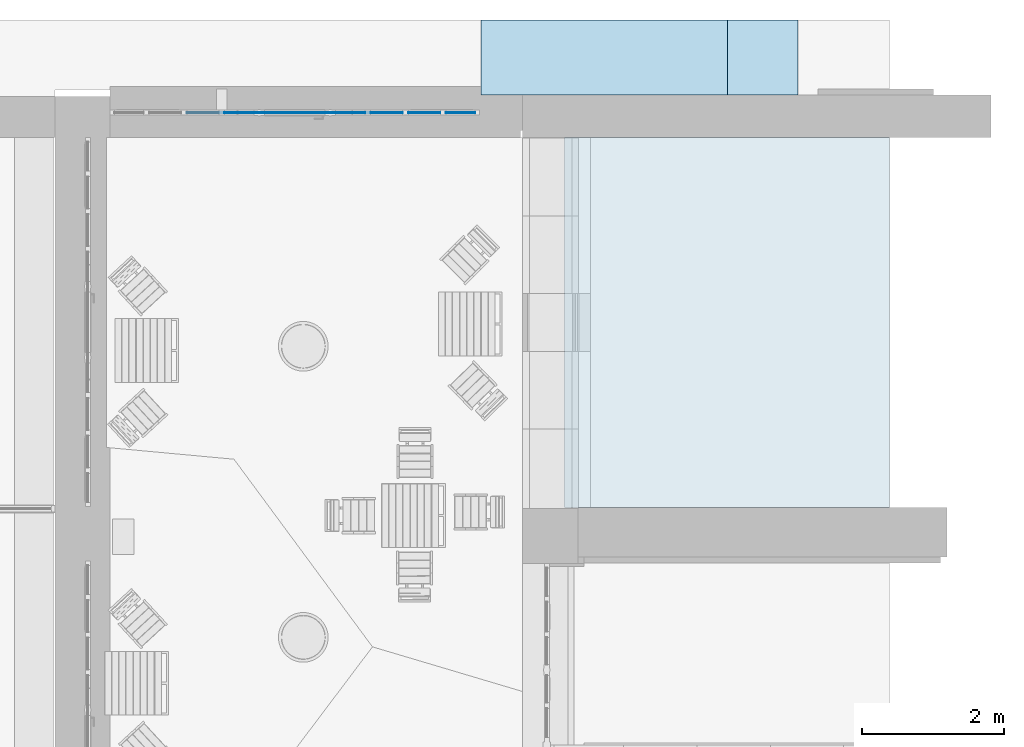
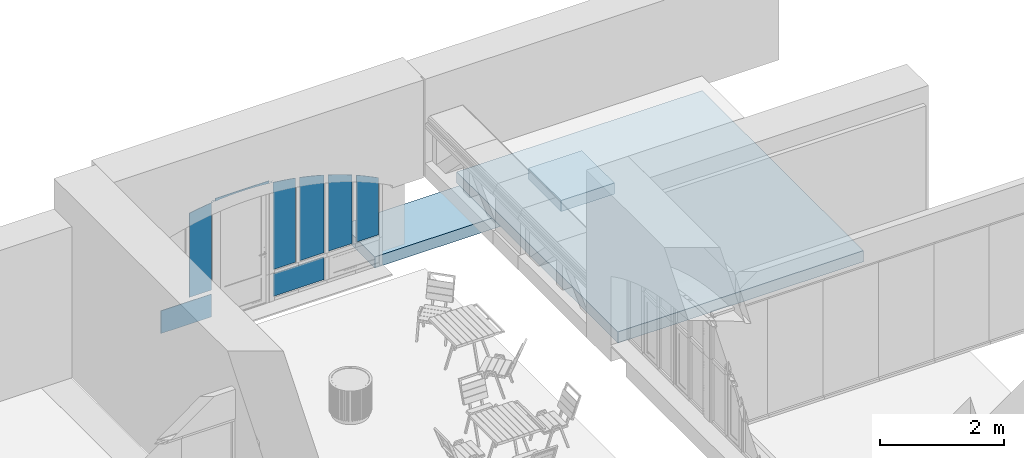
# One storey, part 67 of 88: 8 plates, 3 slabs, 2 elements without a shape of their own.
"""IFC2X3 building model written with IfcOpenShell, lengths in millimetres."""

from ifc_helpers import new_model, entity, si_unit, converted_unit, derived_unit, direction, frame, frame_2d, origin, origin_2d_with_axis, place, context, subcontext, project, spatial, polyline, circle_curve, parameter, trimmed, segment, composite_curve, rectangle, outline, extrude, face_set, surface_model, source, transform, mapped, material, layer, layer_set, layer_usage, type_object, type_shapes, element, aggregate, save


model = new_model("IFC2X3")

# Units and contexts
model_context = context("Model", 3, precision=0.01, world=origin(), true_north=direction((6.123031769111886e-17, 1.0)))
body_context = subcontext(model_context, "Body", "Model", "MODEL_VIEW")
ifc_project = project(units=[si_unit("LENGTHUNIT", "METRE", prefix="MILLI"), si_unit("AREAUNIT", "SQUARE_METRE"), si_unit("VOLUMEUNIT", "CUBIC_METRE"), converted_unit("PLANEANGLEUNIT", "DEGREE", entity("IfcPlaneAngleMeasure", 0.017453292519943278), si_unit("PLANEANGLEUNIT", "RADIAN"), dimensions=[0, 0, 0, 0, 0, 0, 0]), si_unit("MASSUNIT", "GRAM", prefix="KILO"), derived_unit("MASSDENSITYUNIT", [(si_unit("MASSUNIT", "GRAM", prefix="KILO"), 1), (si_unit("LENGTHUNIT", "METRE"), -3)]), derived_unit("IONCONCENTRATIONUNIT", [(si_unit("MASSUNIT", "GRAM", prefix="KILO"), 1), (si_unit("LENGTHUNIT", "METRE"), -3)]), derived_unit("MOMENTOFINERTIAUNIT", [(si_unit("LENGTHUNIT", "METRE"), 4)]), si_unit("TIMEUNIT", "SECOND"), si_unit("FREQUENCYUNIT", "HERTZ"), si_unit("THERMODYNAMICTEMPERATUREUNIT", "DEGREE_CELSIUS"), derived_unit("THERMALTRANSMITTANCEUNIT", [(si_unit("MASSUNIT", "GRAM", prefix="KILO"), 1), (si_unit("THERMODYNAMICTEMPERATUREUNIT", "KELVIN"), -1), (si_unit("TIMEUNIT", "SECOND"), -3)]), derived_unit("THERMALCONDUCTANCEUNIT", [(si_unit("MASSUNIT", "GRAM", prefix="KILO"), 1), (si_unit("THERMODYNAMICTEMPERATUREUNIT", "KELVIN"), -1), (si_unit("TIMEUNIT", "SECOND"), -3), (si_unit("LENGTHUNIT", "METRE"), 1)]), derived_unit("VOLUMETRICFLOWRATEUNIT", [(si_unit("LENGTHUNIT", "METRE", prefix="DECI"), 3), (si_unit("TIMEUNIT", "SECOND"), -1)]), derived_unit("MASSFLOWRATEUNIT", [(si_unit("MASSUNIT", "GRAM", prefix="KILO"), 1), (si_unit("TIMEUNIT", "SECOND"), -1)]), derived_unit("ROTATIONALFREQUENCYUNIT", [(si_unit("TIMEUNIT", "SECOND"), -1)]), si_unit("ELECTRICCURRENTUNIT", "AMPERE"), si_unit("ELECTRICVOLTAGEUNIT", "VOLT"), si_unit("POWERUNIT", "WATT"), si_unit("FORCEUNIT", "NEWTON", prefix="KILO"), si_unit("ILLUMINANCEUNIT", "LUX"), si_unit("LUMINOUSFLUXUNIT", "LUMEN"), si_unit("LUMINOUSINTENSITYUNIT", "CANDELA"), si_unit("ENERGYUNIT", "JOULE"), derived_unit("USERDEFINED", [(si_unit("MASSUNIT", "GRAM", prefix="KILO"), -1), (si_unit("LENGTHUNIT", "METRE"), -2), (si_unit("TIMEUNIT", "SECOND"), 3), (si_unit("LUMINOUSFLUXUNIT", "LUMEN"), 1)]), derived_unit("USERDEFINED", [(si_unit("MASSUNIT", "GRAM", prefix="KILO"), 1), (si_unit("TIMEUNIT", "SECOND"), -3), (si_unit("LENGTHUNIT", "METRE"), 3), (si_unit("ELECTRICCURRENTUNIT", "AMPERE"), -2)]), derived_unit("SOUNDPOWERUNIT", [(si_unit("MASSUNIT", "GRAM", prefix="KILO"), 1), (si_unit("TIMEUNIT", "SECOND"), -3), (si_unit("LENGTHUNIT", "METRE"), 2)]), derived_unit("SOUNDPRESSUREUNIT", [(si_unit("MASSUNIT", "GRAM", prefix="KILO"), 1), (si_unit("LENGTHUNIT", "METRE"), -1), (si_unit("TIMEUNIT", "SECOND"), -2)]), derived_unit("LINEARVELOCITYUNIT", [(si_unit("LENGTHUNIT", "METRE"), 1), (si_unit("TIMEUNIT", "SECOND"), -1)]), si_unit("PRESSUREUNIT", "PASCAL"), derived_unit("USERDEFINED", [(si_unit("MASSUNIT", "GRAM", prefix="KILO"), 1), (si_unit("LENGTHUNIT", "METRE"), -2), (si_unit("TIMEUNIT", "SECOND"), -2)]), derived_unit("LINEARFORCEUNIT", [(si_unit("MASSUNIT", "GRAM", prefix="KILO"), 1), (si_unit("TIMEUNIT", "SECOND"), -2)]), derived_unit("PLANARFORCEUNIT", [(si_unit("MASSUNIT", "GRAM", prefix="KILO"), 1), (si_unit("LENGTHUNIT", "METRE"), -1), (si_unit("TIMEUNIT", "SECOND"), -2)]), derived_unit("SPECIFICHEATCAPACITYUNIT", [(si_unit("THERMODYNAMICTEMPERATUREUNIT", "KELVIN"), -1), (si_unit("LENGTHUNIT", "METRE"), 2), (si_unit("TIMEUNIT", "SECOND"), -2)]), derived_unit("HEATFLUXDENSITYUNIT", [(si_unit("MASSUNIT", "GRAM", prefix="KILO"), 1), (si_unit("TIMEUNIT", "SECOND"), -3)]), derived_unit("HEATINGVALUEUNIT", [(si_unit("LENGTHUNIT", "METRE"), 2), (si_unit("TIMEUNIT", "SECOND"), -2)]), derived_unit("VAPORPERMEABILITYUNIT", [(si_unit("LENGTHUNIT", "METRE"), -1), (si_unit("TIMEUNIT", "SECOND"), 1)]), derived_unit("DYNAMICVISCOSITYUNIT", [(si_unit("MASSUNIT", "GRAM", prefix="KILO"), 1), (si_unit("TIMEUNIT", "SECOND"), -1), (si_unit("LENGTHUNIT", "METRE"), -1)]), derived_unit("THERMALEXPANSIONCOEFFICIENTUNIT", [(si_unit("THERMODYNAMICTEMPERATUREUNIT", "KELVIN"), -1)]), derived_unit("MODULUSOFELASTICITYUNIT", [(si_unit("MASSUNIT", "GRAM", prefix="KILO"), 1), (si_unit("LENGTHUNIT", "METRE"), -1), (si_unit("TIMEUNIT", "SECOND"), -2)]), derived_unit("ISOTHERMALMOISTURECAPACITYUNIT", [(si_unit("MASSUNIT", "GRAM", prefix="KILO"), -1), (si_unit("LENGTHUNIT", "METRE"), 3)]), derived_unit("MOISTUREDIFFUSIVITYUNIT", [(si_unit("TIMEUNIT", "SECOND"), -1), (si_unit("LENGTHUNIT", "METRE"), 2)]), derived_unit("MASSPERLENGTHUNIT", [(si_unit("MASSUNIT", "GRAM", prefix="KILO"), 1), (si_unit("LENGTHUNIT", "METRE"), -1)]), derived_unit("THERMALRESISTANCEUNIT", [(si_unit("MASSUNIT", "GRAM", prefix="KILO"), -1), (si_unit("TIMEUNIT", "SECOND"), 3), (si_unit("THERMODYNAMICTEMPERATUREUNIT", "KELVIN"), 1)]), derived_unit("ACCELERATIONUNIT", [(si_unit("LENGTHUNIT", "METRE"), 1), (si_unit("TIMEUNIT", "SECOND"), -2)]), derived_unit("ANGULARVELOCITYUNIT", [(si_unit("TIMEUNIT", "SECOND"), -1), (si_unit("PLANEANGLEUNIT", "RADIAN"), 1)]), derived_unit("LINEARSTIFFNESSUNIT", [(si_unit("MASSUNIT", "GRAM", prefix="KILO"), 1), (si_unit("TIMEUNIT", "SECOND"), -2)]), derived_unit("WARPINGCONSTANTUNIT", [(si_unit("LENGTHUNIT", "METRE"), 6)]), derived_unit("LINEARMOMENTUNIT", [(si_unit("MASSUNIT", "GRAM", prefix="KILO"), 1), (si_unit("LENGTHUNIT", "METRE"), 1), (si_unit("TIMEUNIT", "SECOND"), -2)]), derived_unit("TORQUEUNIT", [(si_unit("MASSUNIT", "GRAM", prefix="KILO"), 1), (si_unit("LENGTHUNIT", "METRE"), 2), (si_unit("TIMEUNIT", "SECOND"), -2)])], contexts=[model_context])

# Site, building, storey
site_placement = place(None, origin())
site = spatial("IfcSite", under=ifc_project, at=site_placement, Name="Default", CompositionType="ELEMENT")
building_placement = place(site_placement, origin())
building = spatial("IfcBuilding", under=site, at=building_placement, Name="Eesti Rahvusraamatukogu hoone renoveerimise projekteerimistööd", CompositionType="ELEMENT")
storey_placement = place(building_placement, origin())
storey = spatial("IfcBuildingStorey", under=building, at=storey_placement, Name="1. korrus", CompositionType="ELEMENT", Elevation=0.0)

# Roof, slab
ifc_material_1 = material(Name="ol. olev materjal")
ifc_layer_1 = layer(ifc_material_1, 220.0)
ifc_layer_set_1 = layer_set([ifc_layer_1], Name="Basic Roof:ol. olev - 220mm")
roof_placement = place(storey_placement, frame((-36190.173422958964, 48780.0, 1330.0)))
roof = element("IfcRoof", 1, at=roof_placement, inside=storey, material=ifc_layer_set_1, Name="Basic Roof:ol. olev - 220mm", ObjectType="Basic Roof:ol. olev - 220mm", ShapeType="NOTDEFINED")
slab_type_1 = type_object("IfcSlabType", Name="Basic Roof:ol. olev - 220mm", PredefinedType="ROOF")
slab_1_placement = place(storey_placement, frame((-36190.173422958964, 48780.0, 1330.0)))
slab_1 = element("IfcSlab", 2, at=slab_1_placement, type_object=slab_type_1, Name="Basic Roof:ol. olev - 220mm:1", ObjectType="Basic Roof:ol. olev - 220mm", PredefinedType="ROOF", context=body_context, shape_type="SweptSolid", body=[
    extrude(rectangle(XDim=5210.376279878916, YDim=4580.354991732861, at=frame_2d((4.320099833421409e-12, -6.59383658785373e-12), x_axis=(1.0, 0.0))), frame((2290.177495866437, 2605.1881399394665, 0.0), z_axis=(0.0, 0.0, 1.0), x_axis=(0.0, 1.0, 0.0)), (0.0, 0.0, 1.0), 220.00000000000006),
])
aggregate(roof, [slab_1])

# Slabs
ifc_layer_2 = layer(ifc_material_1, 220.0)
ifc_layer_set_2 = layer_set([ifc_layer_2], Name="Floor:ol. olev - 220mm")
ifc_layer_usage_1 = layer_usage(ifc_layer_set_2, "AXIS3", "POSITIVE", 0.0)
slab_type_2 = type_object("IfcSlabType", Name="Floor:ol. olev - 220mm", PredefinedType="FLOOR", material=ifc_layer_set_2)
slab_2_placement = place(storey_placement, origin())
element("IfcSlab", 3, at=slab_2_placement, inside=storey, type_object=slab_type_2, material=ifc_layer_usage_1, Name="Floor:ol. olev - 220mm", ObjectType="Floor:ol. olev - 220mm", PredefinedType="FLOOR", context=body_context, shape_type="SweptSolid", body=[
    extrude(rectangle(XDim=1055.5457075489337, YDim=3474.999999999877, at=origin_2d_with_axis()), frame((-35632.49999999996, 55118.14913365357, -80.0), z_axis=(0.0, 0.0, -1.0), x_axis=(0.0, 1.0, 0.0)), (0.0, 0.0, 1.0), 220.00000000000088),
])
ifc_layer_usage_2 = layer_usage(ifc_layer_set_2, "AXIS3", "POSITIVE", 0.0)
slab_3_placement = place(storey_placement, origin())
element("IfcSlab", 4, at=slab_3_placement, inside=storey, type_object=slab_type_2, material=ifc_layer_usage_2, Name="Floor:ol. olev - 220mm", ObjectType="Floor:ol. olev - 220mm", PredefinedType="FLOOR", context=body_context, shape_type="SweptSolid", body=[
    extrude(rectangle(XDim=1055.5457075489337, YDim=995.000000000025, at=frame_2d((0.0, 4.320099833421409e-12), x_axis=(1.0, 0.0))), frame((-33397.500000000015, 55118.14913365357, -185.49999999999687), z_axis=(0.0, 0.0, -1.0), x_axis=(0.0, 1.0, 0.0)), (0.0, 0.0, 1.0), 220.00000000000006),
])

# Curtain wall, plates
curtain_wall_type = type_object("IfcCurtainWallType", Name="Curtain Wall:Ak-05", PredefinedType="NOTDEFINED")
curtain_wall_placement = place(storey_placement, origin())
curtain_wall = element("IfcCurtainWall", 5, at=curtain_wall_placement, inside=storey, type_object=curtain_wall_type, Name="Curtain Wall:Ak-05", ObjectType="Curtain Wall:Ak-05")
ifc_material_2 = material(Name="EST. Klaas. 3x. Default")
plate_type_1 = type_object("IfcPlateType", Name="System Panel:Peegelaknad 6-16-4-16-4, paneel", PredefinedType="CURTAIN_PANEL", material=ifc_material_2)
shared_shape_1 = source(origin(), body_context, "Body", "SweptSolid", [
    extrude(rectangle(XDim=450.00000000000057, YDim=944.9999999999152, at=frame_2d((0.0, -5.833333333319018), x_axis=(1.0, 0.0))), frame((5.833333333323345, -5.0, 225.0), z_axis=(0.0, 1.0, 0.0), x_axis=(0.0, 0.0, 1.0)), (0.0, 0.0, 1.0), 10.0),
])
type_shapes(plate_type_1, [shared_shape_1])
plate_1_placement = place(curtain_wall_placement, frame((-38942.500000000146, 54340.0, 10.0), z_axis=(0.0, 0.0, 1.0), x_axis=(-1.0, 0.0, 0.0)))
plate_1 = element("IfcPlate", 6, at=plate_1_placement, type_object=plate_type_1, material=ifc_material_2, Name="System Panel:Peegelaknad 6-16-4-16-4, paneel", ObjectType="System Panel:Peegelaknad 6-16-4-16-4, paneel", context=body_context, shape_type="MappedRepresentation", body=[
    mapped(shared_shape_1, transform((0.0, 0.0, 0.0), scale=1.0)),
])
plate_type_2 = type_object("IfcPlateType", Name="System Panel:Peegelaknad 6-16-4-16-4, paneel", PredefinedType="CURTAIN_PANEL", material=ifc_material_2)
shared_shape_2 = source(origin(), body_context, "Body", "SweptSolid", [
    extrude(rectangle(XDim=450.00000000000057, YDim=945.0000000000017, at=frame_2d((0.0, 5.833333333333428), x_axis=(1.0, 0.0))), frame((-5.8333333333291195, -5.0, 225.0), z_axis=(0.0, 1.0, 0.0), x_axis=(0.0, 0.0, 1.0)), (0.0, 0.0, 1.0), 10.0),
])
type_shapes(plate_type_2, [shared_shape_2])
plate_2_placement = place(curtain_wall_placement, frame((-41037.5000000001, 54340.0, 10.0), z_axis=(0.0, 0.0, 1.0), x_axis=(-1.0, 0.0, 0.0)))
plate_2 = element("IfcPlate", 7, at=plate_2_placement, type_object=plate_type_2, material=ifc_material_2, Name="System Panel:Peegelaknad 6-16-4-16-4, paneel", ObjectType="System Panel:Peegelaknad 6-16-4-16-4, paneel", context=body_context, shape_type="MappedRepresentation", body=[
    mapped(shared_shape_2, transform((0.0, 0.0, 0.0), scale=1.0)),
])
plate_type_3 = type_object("IfcPlateType", Name="System Panel:Peegelaknad 6-16-4-16-4, paneel", PredefinedType="CURTAIN_PANEL", material=ifc_material_2)
shared_shape_3 = source(origin(), body_context, "Body", "SweptSolid", [
    extrude(outline(composite_curve([segment(polyline([(-610.3301409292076, -205.0), (513.3133718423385, -205.0)]), True, "CONTINUOUS"), segment(trimmed(circle_curve(frame_2d((-4323.610707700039, 2335.0), x_axis=(0.9256428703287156, -0.37839830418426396)), 5463.280566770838), [parameter(354.5293230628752)], [parameter(359.2877436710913)], True, "PARAMETER"), True, "CONTINUOUS"), segment(polyline([(707.3469100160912, 205.0), (-610.3301409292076, 205.0)]), True, "CONTINUOUS"), segment(polyline([(-610.3301409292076, 205.0), (-610.3301409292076, -205.0)]), True, "CONTINUOUS")], self_intersect=False)), frame((0.0, -5.0, 610.3301409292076), z_axis=(0.0, 1.0, 0.0), x_axis=(0.0, 0.0, 1.0)), (0.0, 0.0, 1.0), 10.0),
])
type_shapes(plate_type_3, [shared_shape_3])
plate_3_placement = place(curtain_wall_placement, frame((-37655.0, 54340.0, 540.0), z_axis=(0.0, 0.0, 1.0), x_axis=(-1.0, 0.0, 0.0)))
plate_3 = element("IfcPlate", 8, at=plate_3_placement, type_object=plate_type_3, material=ifc_material_2, Name="System Panel:Peegelaknad 6-16-4-16-4, paneel", ObjectType="System Panel:Peegelaknad 6-16-4-16-4, paneel", context=body_context, shape_type="MappedRepresentation", body=[
    mapped(shared_shape_3, transform((0.0, 0.0, 0.0), scale=1.0)),
])
plate_type_4 = type_object("IfcPlateType", Name="System Panel:Peegelaknad 6-16-4-16-4, paneel", PredefinedType="CURTAIN_PANEL", material=ifc_material_2)
shared_shape_4 = source(origin(), body_context, "Body", "SweptSolid", [
    extrude(outline(composite_curve([segment(polyline([(-715.3148161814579, -225.0), (635.487411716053, -225.0)]), True, "CONTINUOUS"), segment(trimmed(circle_curve(frame_2d((-4428.595382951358, 1825.0), x_axis=(0.9592847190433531, -0.2824408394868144)), 5463.280566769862), [parameter(354.3672571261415)], [parameter(359.3764184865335)], True, "PARAMETER"), True, "CONTINUOUS"), segment(polyline([(795.1422206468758, 225.0), (-715.3148161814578, 225.0)]), True, "CONTINUOUS"), segment(polyline([(-715.3148161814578, 225.0), (-715.3148161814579, -225.0)]), True, "CONTINUOUS")], self_intersect=False)), frame((0.0, -5.0, 715.3148161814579), z_axis=(0.0, 1.0, 0.0), x_axis=(0.0, 0.0, 1.0)), (0.0, 0.0, 1.0), 10.0),
])
type_shapes(plate_type_4, [shared_shape_4])
plate_4_placement = place(curtain_wall_placement, frame((-38165.0, 54340.0, 540.0), z_axis=(0.0, 0.0, 1.0), x_axis=(-1.0, 0.0, 0.0)))
plate_4 = element("IfcPlate", 9, at=plate_4_placement, type_object=plate_type_4, material=ifc_material_2, Name="System Panel:Peegelaknad 6-16-4-16-4, paneel", ObjectType="System Panel:Peegelaknad 6-16-4-16-4, paneel", context=body_context, shape_type="MappedRepresentation", body=[
    mapped(shared_shape_4, transform((0.0, 0.0, 0.0), scale=1.0)),
])
plate_type_5 = type_object("IfcPlateType", Name="System Panel:Peegelaknad 6-16-4-16-4, paneel", PredefinedType="CURTAIN_PANEL", material=ifc_material_2)
shared_shape_5 = source(origin(), body_context, "Body", "SweptSolid", [
    extrude(outline(composite_curve([segment(polyline([(-794.6219170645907, -225.0), (739.6716748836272, -225.0)]), True, "CONTINUOUS"), segment(trimmed(circle_curve(frame_2d((-4507.902483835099, 1295.0), x_axis=(0.9824581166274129, -0.18648337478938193)), 5463.2805667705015), [parameter(354.5935648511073)], [parameter(359.45306970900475)], True, "PARAMETER"), True, "CONTINUOUS"), segment(polyline([(849.5721592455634, 225.0), (-794.6219170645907, 225.0)]), True, "CONTINUOUS"), segment(polyline([(-794.6219170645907, 225.0), (-794.6219170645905, -225.0)]), True, "CONTINUOUS")], self_intersect=False)), frame((0.0, -5.0, 794.6219170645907), z_axis=(0.0, 1.0, 0.0), x_axis=(0.0, 0.0, 1.0)), (0.0, 0.0, 1.0), 10.0),
])
type_shapes(plate_type_5, [shared_shape_5])
plate_5_placement = place(curtain_wall_placement, frame((-38695.0, 54340.0, 540.0), z_axis=(0.0, 0.0, 1.0), x_axis=(-1.0, 0.0, 0.0)))
plate_5 = element("IfcPlate", 10, at=plate_5_placement, type_object=plate_type_5, material=ifc_material_2, Name="System Panel:Peegelaknad 6-16-4-16-4, paneel", ObjectType="System Panel:Peegelaknad 6-16-4-16-4, paneel", context=body_context, shape_type="MappedRepresentation", body=[
    mapped(shared_shape_5, transform((0.0, 0.0, 0.0), scale=1.0)),
])
plate_type_6 = type_object("IfcPlateType", Name="System Panel:Peegelaknad 6-16-4-16-4, paneel", PredefinedType="CURTAIN_PANEL", material=ifc_material_2)
shared_shape_6 = source(origin(), body_context, "Body", "SurfaceModel", [
    surface_model("IfcFaceBasedSurfaceModel", [(-245.0, -5.0, 0.0), (170.0, -5.0, 0.0), (170.0, -5.0, 1750.0), (245.0, -5.0, 1750.0), (245.0, -5.0, 1727.0718621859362), (93.20177957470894, -5.0, 1710.979164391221), (-58.08758672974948, -5.0, 1690.6517865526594), (-151.67863011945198, -5.0, 1675.9125069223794), (-245.0, -5.0, 1659.5524430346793), (-245.0, 5.0, 0.0), (-245.0, 5.0, 1659.5524430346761), (-151.67863011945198, 5.0, 1675.9125069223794), (-58.08758672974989, 5.0, 1690.6517865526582), (93.20177957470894, 5.0, 1710.979164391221), (245.0, 5.0, 1727.071862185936), (245.0, 5.0, 1750.0), (170.0, 5.0, 1750.0), (170.0, 5.0, 0.0)], [face_set([[[0, 1, 2, 3, 4, 5, 6, 7, 8]], [[9, 10, 11, 12, 13, 14, 15, 16, 17]], [[1, 0, 9, 17]], [[2, 1, 17, 16]], [[3, 15, 16, 2]], [[4, 14, 15, 3]], [[5, 4, 14, 13]], [[12, 6, 5, 13]], [[7, 6, 12, 11]], [[10, 8, 7, 11]], [[0, 8, 10, 9]]])]),
])
type_shapes(plate_type_6, [shared_shape_6])
plate_6_placement = place(curtain_wall_placement, frame((-39245.0, 54340.0, 540.0), z_axis=(0.0, 0.0, 1.0), x_axis=(-1.0, 0.0, 0.0)))
plate_6 = element("IfcPlate", 11, at=plate_6_placement, type_object=plate_type_6, material=ifc_material_2, Name="System Panel:Peegelaknad 6-16-4-16-4, paneel", ObjectType="System Panel:Peegelaknad 6-16-4-16-4, paneel", context=body_context, shape_type="MappedRepresentation", body=[
    mapped(shared_shape_6, transform((0.0, 0.0, 0.0), scale=1.0)),
])
plate_type_7 = type_object("IfcPlateType", Name="System Panel:Peegelaknad 6-16-4-16-4, paneel", PredefinedType="CURTAIN_PANEL", material=ifc_material_2)
shared_shape_7 = source(origin(), body_context, "Body", "SurfaceModel", [
    surface_model("IfcFaceBasedSurfaceModel", [(-170.0, -5.0, 0.0), (245.0, -5.0, 0.0), (245.0, -5.0, 1659.5524430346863), (151.67863011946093, -5.0, 1675.9125069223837), (58.08758672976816, -5.0, 1690.6517865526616), (-93.2017795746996, -5.0, 1710.979164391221), (-245.0, -5.0, 1727.071862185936), (-245.0, -5.0, 1750.0), (-170.0, -5.0, 1750.0), (-170.0, 5.0, 0.0), (245.0, 5.0, 0.0), (245.0, 5.0, 1659.552443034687), (151.67863011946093, 5.0, 1675.9125069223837), (58.08758672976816, 5.0, 1690.6517865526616), (-93.2017795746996, 5.0, 1710.979164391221), (-245.0, 5.0, 1727.071862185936), (-245.0, 5.0, 1750.0), (-170.0, 5.0, 1750.0)], [face_set([[[0, 1, 2, 3, 4, 5, 6, 7, 8]], [[9, 10, 11, 12, 13, 14, 15, 16, 17]], [[1, 0, 9, 10]], [[2, 1, 10, 11]], [[3, 2, 11, 12]], [[13, 4, 3, 12]], [[4, 13, 14, 5]], [[15, 6, 5, 14]], [[7, 16, 15, 6]], [[8, 17, 16, 7]], [[0, 8, 17, 9]]])]),
])
type_shapes(plate_type_7, [shared_shape_7])
plate_7_placement = place(curtain_wall_placement, frame((-40735.0, 54340.0, 540.0), z_axis=(0.0, 0.0, 1.0), x_axis=(-1.0, 0.0, 0.0)))
plate_7 = element("IfcPlate", 12, at=plate_7_placement, type_object=plate_type_7, material=ifc_material_2, Name="System Panel:Peegelaknad 6-16-4-16-4, paneel", ObjectType="System Panel:Peegelaknad 6-16-4-16-4, paneel", context=body_context, shape_type="MappedRepresentation", body=[
    mapped(shared_shape_7, transform((0.0, 0.0, 0.0), scale=1.0)),
])
ifc_material_3 = material(Name="<Unnamed>")
plate_type_8 = type_object("IfcPlateType", Name="System Panel:Peegelaknad 6-16-4-16-4, paneel", PredefinedType="CURTAIN_PANEL", material=ifc_material_3)
shared_shape_8 = source(origin(), body_context, "Body", "SweptSolid", [
    extrude(outline(composite_curve([segment(polyline([(18.907544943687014, -500.34273422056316), (71.61836514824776, -495.5513663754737)]), True, "CONTINUOUS"), segment(polyline([(71.61836514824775, -495.5513663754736), (-18.907544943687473, 500.3427342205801)]), True, "CONTINUOUS"), segment(polyline([(-18.907544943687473, 500.3427342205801), (-71.61836514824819, 495.5513663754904)]), True, "CONTINUOUS"), segment(trimmed(circle_curve(frame_2d((-5444.3702992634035, -494.8885387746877), x_axis=(1.0, 0.0)), 5463.280566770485), [parameter(359.94279949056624)], [parameter(10.444926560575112)], True, "PARAMETER"), False, "CONTINUOUS")], self_intersect=False)), frame((0.0, -5.0, 26.46406890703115), z_axis=(0.0, -1.0, 0.0), x_axis=(0.0905259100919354, 0.0, 0.9958941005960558)), (0.0, 0.0, -1.0), 10.0),
])
type_shapes(plate_type_8, [shared_shape_8])
plate_8_placement = place(curtain_wall_placement, frame((-39990.0, 54340.0, 2267.0718621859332), z_axis=(0.0, 0.0, 1.0), x_axis=(-1.0, 0.0, 0.0)))
plate_8 = element("IfcPlate", 13, at=plate_8_placement, type_object=plate_type_8, material=ifc_material_3, Name="System Panel:Peegelaknad 6-16-4-16-4, paneel", ObjectType="System Panel:Peegelaknad 6-16-4-16-4, paneel", context=body_context, shape_type="MappedRepresentation", body=[
    mapped(shared_shape_8, transform((0.0, 0.0, 0.0), scale=1.0)),
])
aggregate(curtain_wall, [plate_1, plate_2, plate_3, plate_4, plate_5, plate_6, plate_7, plate_8])

save(model, "model.ifc")
